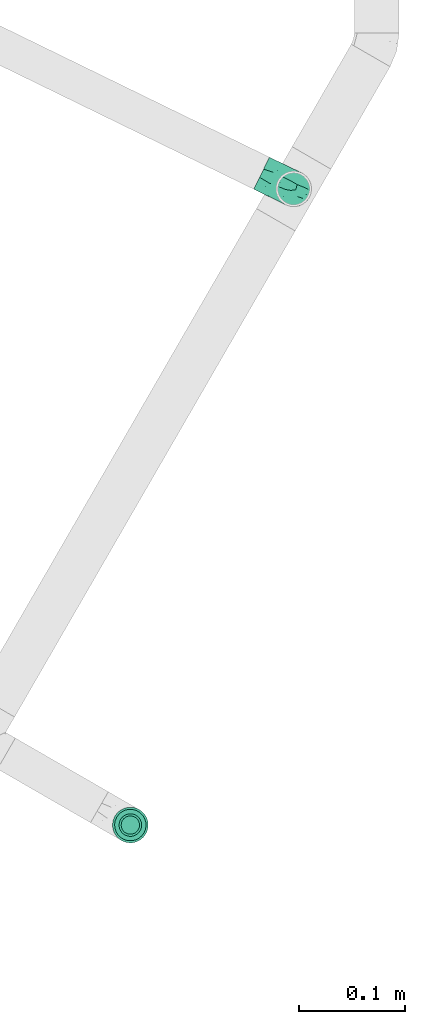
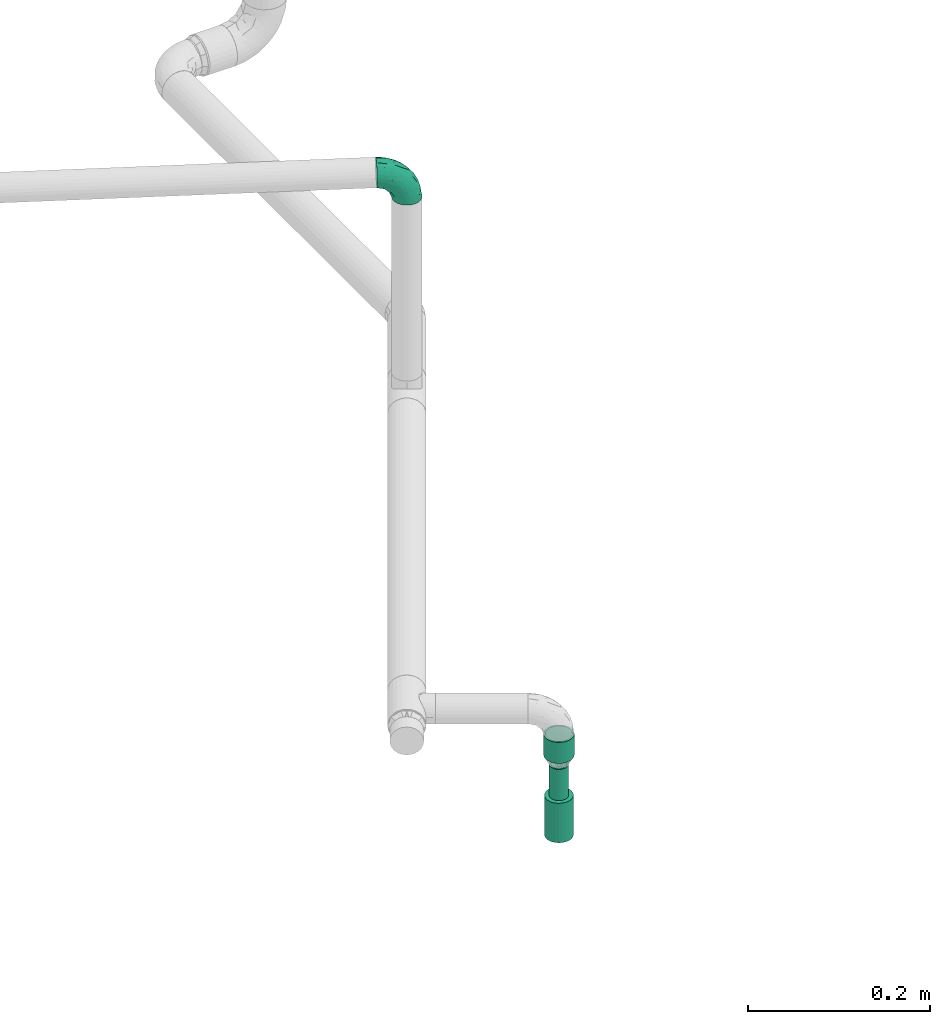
# One storey, part 24 of 43: 2 flow segments, 1 flow fitting, 1 flow terminal.
"""IFC2X3 building model written with IfcOpenShell, lengths in millimetres."""

from ifc_helpers import new_model, entity, si_unit, converted_unit, derived_unit, direction, frame, origin_with_axes, origin_2d_with_axis, place, context, subcontext, project, spatial, hollow_circle, extrude, open_shell, surface_model, source, transform, mapped, type_object, element, save


model = new_model("IFC2X3")

# Units and contexts
model_context = context("Model", 3, precision=0.01, world=frame((0.0, 4.29681676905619e-09, 0.0)), true_north=direction((4.01073788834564e-13, 1.0)))
plan_context = context("Plan", 3, precision=0.01, world=frame((0.0, 4.29681676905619e-09, 0.0)), true_north=direction((4.01073788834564e-13, 1.0)))
body_context = subcontext(model_context, "Body", "Model", "MODEL_VIEW")
ifc_project = project(units=[converted_unit("PLANEANGLEUNIT", "DEGREE", entity("IfcPositiveLengthMeasure", 0.0174532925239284), si_unit("PLANEANGLEUNIT", "RADIAN"), dimensions=[0, 0, 0, 0, 0, 0, 0]), si_unit("AREAUNIT", "SQUARE_METRE"), si_unit("LENGTHUNIT", "METRE", prefix="MILLI"), si_unit("MASSUNIT", "GRAM", prefix="KILO"), si_unit("POWERUNIT", "WATT"), si_unit("PRESSUREUNIT", "PASCAL"), si_unit("FORCEUNIT", "NEWTON", prefix="KILO"), si_unit("ELECTRICVOLTAGEUNIT", "VOLT"), si_unit("ELECTRICCURRENTUNIT", "AMPERE"), si_unit("THERMODYNAMICTEMPERATUREUNIT", "DEGREE_CELSIUS"), si_unit("TIMEUNIT", "SECOND"), si_unit("VOLUMEUNIT", "CUBIC_METRE"), derived_unit("LINEARVELOCITYUNIT", [(si_unit("LENGTHUNIT", "METRE"), 1), (si_unit("TIMEUNIT", "SECOND"), -1)]), derived_unit("VOLUMETRICFLOWRATEUNIT", [(si_unit("VOLUMEUNIT", "CUBIC_METRE"), 1), (si_unit("TIMEUNIT", "SECOND"), -1)]), derived_unit("THERMALTRANSMITTANCEUNIT", [(si_unit("POWERUNIT", "WATT"), 1), (si_unit("THERMODYNAMICTEMPERATUREUNIT", "KELVIN"), -1), (si_unit("AREAUNIT", "SQUARE_METRE"), -1)]), derived_unit("SOUNDPRESSUREUNIT", [(si_unit("PRESSUREUNIT", "PASCAL"), 1)])], contexts=[model_context, plan_context])

# Site, building, storey
site_placement = place(None, frame((0.0, -4.29681676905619e-09, 0.0), z_axis=(0.0, 0.0, 1.0), x_axis=(1.0, 0.0, 0.0)))
site = spatial("IfcSite", under=ifc_project, at=site_placement, CompositionType="ELEMENT")
building_placement = place(site_placement, frame((0.0, 4.29681676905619e-09, 0.0), z_axis=(0.0, 0.0, 1.0), x_axis=(1.0, 0.0, 0.0)))
building = spatial("IfcBuilding", under=site, at=building_placement, Name="mc-building", CompositionType="ELEMENT")
storey_placement = place(building_placement, frame((0.0, 0.0, 210900.0), z_axis=(0.0, 0.0, 1.0), x_axis=(1.0, 0.0, 0.0)))
storey = spatial("IfcBuildingStorey", under=building, at=storey_placement, Name="Nivå F", CompositionType="ELEMENT", Elevation=210900.0)

# Flow fitting
pipe_fitting_type = type_object("IfcPipeFittingType", Name="magi_pipe_fe_elbow_short_001", PredefinedType="BEND")
shared_shape_1 = source(origin_with_axes(), body_context, "Body", "SurfaceModel", [
    surface_model("IfcShellBasedSurfaceModel", [(-33.8, 4.37404, -16.32415), (-33.8, 0.0, -16.9), (-33.8, 11.9501, -11.9501), (-33.8, 8.45, -14.63583), (-33.8, 16.32415, -4.37404), (-33.8, 14.63583, -8.45), (-33.8, -14.63583, -8.45), (-33.8, -16.32415, -4.37404), (-33.8, -8.45, 14.63583), (-33.8, -11.9501, -11.9501), (-33.8, -8.45, -14.63583), (-33.8, -4.37404, -16.32415), (-33.8, -16.9, 0.0), (-33.8, -16.32415, 4.37404), (-33.8, 11.9501, 11.9501), (-33.8, 14.63583, 8.45), (-33.8, 16.32415, 4.37404), (-33.8, 4.37404, 16.32415), (-33.8, 8.45, 14.63583), (-33.8, -14.63583, 8.45), (-33.8, -11.9501, 11.9501), (-33.8, -4.37404, 16.32415), (-33.8, 0.0, 16.9), (-33.8, 16.9, 0.0), (-11.9501, 33.8, -11.9501), (0.0, 33.8, -16.9), (-4.37404, 33.8, -16.32415), (-8.45, 33.8, -14.63583), (-14.63583, 33.8, -8.45), (-16.32415, 33.8, -4.37404), (14.63583, 33.8, -8.45), (8.45, 33.8, 14.63583), (16.32415, 33.8, -4.37404), (8.45, 33.8, -14.63583), (11.9501, 33.8, -11.9501), (4.37404, 33.8, -16.32415), (16.32415, 33.8, 4.37404), (16.9, 33.8, 0.0), (-11.9501, 33.8, 11.9501), (-16.32415, 33.8, 4.37404), (-14.63583, 33.8, 8.45), (-8.45, 33.8, 14.63583), (-4.37404, 33.8, 16.32415), (11.9501, 33.8, 11.9501), (14.63583, 33.8, 8.45), (0.0, 33.8, 16.9), (4.37404, 33.8, 16.32415), (-16.9, 33.8, 0.0), (-24.79389, -13.12945, 9.48721), (-22.19287, -9.75018, 12.59315), (-24.09897, -14.97035, 0.0), (-14.93934, -10.76256, 8.5297), (-22.46095, -14.75051, 5.27077), (14.75051, 22.46094, 5.27077), (11.9251, 13.23888, 4.33236), (13.04069, 14.39795, 0.0), (7.71387, 13.68847, 11.55891), (9.75018, 22.19287, 12.59315), (4.10169, 13.0571, 14.04018), (-24.84007, -6.39063, 15.2048), (-25.81779, -2.23879, 16.61097), (-23.66549, 2.59054, 16.87119), (-26.50418, 14.06512, 11.08152), (-24.21253, 17.66365, 7.72657), (-29.58514, 15.86957, 7.00283), (-6.17382, -7.5455, 0.0), (-13.23888, -11.9251, 4.33236), (-14.39795, -13.04069, 0.0), (-17.81434, 18.87373, 11.97104), (-6.30846, 29.15138, 15.82987), (-2.31622, 25.28002, 16.85849), (-29.23923, 10.23435, 13.77053), (-1.45439, -2.85688, 7.61475), (-0.28326, 0.34872, 10.09509), (-5.74484, -4.04709, 10.4122), (-4.41137, 11.31918, 16.59407), (-8.39727, 3.10034, 15.7812), (-1.72649, 9.1306, 15.53089), (-17.39909, 24.75344, 7.64977), (-26.19233, 20.0512, 0.0), (-28.14518, 17.29657, 4.25857), (-26.05147, 6.6281, 15.96447), (-5.87354, 16.61944, 16.86968), (-12.51807, 12.51807, 16.48937), (-10.06312, 7.38516, 16.81295), (-3.01882, 3.01882, 13.81718), (-13.0571, -4.10169, 14.04018), (-16.82553, -0.15166, 16.38038), (10.76256, 14.93934, 8.5297), (13.12945, 24.79389, 9.48721), (6.39063, 24.84007, 15.2048), (2.23879, 25.81779, 16.61097), (-13.68847, -7.71387, 11.55891), (14.97035, 24.09897, 0.0), (-7.30894, 22.89991, 16.09489), (-10.67958, 26.17414, 14.008), (-12.78295, 18.26924, 15.06066), (-13.88562, 22.45231, 12.93244), (-18.04944, 15.16501, 14.04434), (-23.11658, 20.08178, 4.02986), (-21.84989, 21.84989, 0.0), (-18.55817, 25.48277, 3.93065), (-13.95142, 26.94732, 11.03289), (-18.57098, 7.23906, 16.59756), (-16.58335, 4.14122, 16.89279), (-17.96666, 11.46709, 15.63151), (-9.84453, 17.54304, 16.18938), (0.15166, 16.82553, 16.38038), (-23.27207, 11.47201, 14.23154), (3.84842, 5.86994, 10.70473), (-8.0212, -7.54413, 7.93275), (1.00345, -2.19508, 4.57414), (5.13203, 3.01004, 5.90201), (5.24161, 1.7543, 2.53265), (8.70457, 7.04947, 3.99182), (-20.0512, 26.19233, 0.0), (8.4852, 8.76699, 7.09296), (-4.55488, -6.72064, 4.90681), (2.05031, -2.05031, 0.0), (7.5455, 6.17382, 0.0), (-26.75399, 2.1369, -16.845), (-14.61995, 24.73803, -11.27736), (-28.45274, -13.45335, -9.81895), (-26.00469, 6.63555, -15.96645), (-23.06726, 20.04573, -4.26202), (-13.80647, -4.26506, -14.17873), (-14.67501, -0.21081, -16.07388), (-6.7902, -0.2828, -13.8478), (-24.53586, 11.08096, -14.13417), (-26.72048, 14.00837, -11.05776), (10.0967, 24.44989, -12.75976), (5.83237, 21.40218, -15.03047), (6.66249, 28.54238, -15.38093), (-20.38182, 15.48705, -12.74596), (-15.65186, 19.64213, -13.01327), (-12.03528, 20.66498, -14.67665), (-15.61907, 15.61906, -14.83879), (-25.56551, -15.26206, 0.0), (-24.65452, -15.12934, -5.50955), (12.53268, 21.23441, -9.15363), (13.45335, 28.45274, -9.81895), (15.12934, 24.65452, -5.50955), (-7.35442, -8.31014, -5.65563), (-15.67504, -12.54494, -5.54878), (-24.44989, -10.0967, -12.75976), (0.16522, 0.41303, -9.71728), (-5.70658, -5.33066, -8.89288), (-5.13869, -2.37198, -11.53565), (-21.23441, -12.53268, -9.15363), (0.71146, 7.93863, -14.09382), (0.21081, 14.67501, -16.07388), (3.49291, 14.42772, -14.76381), (-24.89911, -2.13088, -16.591), (-28.54238, -6.66249, -15.38093), (-18.44386, -7.71663, -13.26957), (2.13088, 24.89911, -16.591), (-28.64342, 17.44413, -2.89318), (1.70017, -1.28722, -5.09504), (-16.57067, 26.81947, -7.36596), (-17.69055, 27.4263, -3.76405), (-12.89279, -9.7522, -8.66343), (-5.96611, 5.96611, -15.95814), (-20.53709, 20.09345, -8.28985), (-2.1369, 26.75399, -16.845), (-6.89872, 24.58781, -16.02578), (-10.60739, 26.53157, -13.98044), (-21.40218, -5.83237, -15.03047), (2.93192, 5.89627, -11.55917), (6.89393, 12.61842, -11.82233), (5.58056, 5.95325, -8.79455), (-3.99512, 18.61798, -16.89635), (-9.1383, 9.86148, -16.89041), (-9.99983, 16.02119, -16.39699), (-16.68576, 9.78031, -16.34199), (-27.01915, 16.61158, -7.12979), (15.26206, 25.56551, 0.0), (-18.61798, 3.99512, -16.89635), (-19.37495, 27.82495, 0.0), (9.7522, 12.89279, -8.66343), (-12.61842, -6.89393, -11.82233), (8.31014, 7.35442, -5.65563), (-18.84705, 19.14018, -10.96545), (12.54494, 15.67504, -5.54878)], [open_shell([[[0, 1, 2]], [[3, 0, 2]], [[4, 5, 2]], [[6, 2, 1]], [[2, 7, 8]], [[9, 6, 10]], [[1, 11, 10]], [[10, 6, 1]], [[2, 6, 7]], [[12, 13, 7]], [[4, 2, 14]], [[4, 15, 16]], [[4, 14, 15]], [[17, 18, 14]], [[14, 2, 8]], [[17, 14, 8]], [[19, 20, 13]], [[20, 7, 13]], [[21, 22, 8]], [[20, 8, 7]], [[8, 22, 17]], [[4, 16, 23]], [[24, 25, 26]], [[24, 26, 27]], [[24, 28, 29]], [[25, 24, 30]], [[31, 32, 24]], [[33, 30, 34]], [[33, 35, 25]], [[25, 30, 33]], [[32, 30, 24]], [[32, 36, 37]], [[38, 24, 29]], [[39, 40, 29]], [[40, 38, 29]], [[38, 41, 42]], [[38, 31, 24]], [[31, 38, 42]], [[36, 43, 44]], [[36, 32, 43]], [[31, 45, 46]], [[32, 31, 43]], [[42, 45, 31]], [[39, 29, 47]], [[20, 48, 49]], [[13, 12, 50]], [[51, 48, 52]], [[53, 54, 55]], [[48, 20, 19]], [[13, 52, 19]], [[56, 57, 58]], [[49, 8, 20]], [[49, 59, 8]], [[22, 60, 61]], [[62, 63, 64]], [[65, 66, 67]], [[57, 43, 31]], [[62, 68, 63]], [[42, 69, 70]], [[18, 71, 14]], [[21, 60, 22]], [[72, 73, 74]], [[75, 76, 77]], [[14, 62, 15]], [[40, 39, 78]], [[79, 23, 80]], [[64, 16, 15]], [[22, 61, 17]], [[17, 81, 18]], [[82, 83, 84]], [[74, 85, 86]], [[59, 86, 87]], [[88, 89, 57]], [[90, 31, 46]], [[44, 53, 36]], [[46, 45, 91]], [[54, 53, 88]], [[44, 89, 53]], [[92, 86, 49]], [[89, 44, 43]], [[8, 59, 21]], [[53, 55, 93]], [[93, 36, 53]], [[66, 52, 67]], [[94, 82, 70]], [[95, 96, 94]], [[97, 98, 96]], [[79, 99, 100]], [[41, 38, 95]], [[101, 100, 99]], [[68, 78, 63]], [[42, 41, 69]], [[23, 16, 80]], [[95, 94, 69]], [[78, 101, 99]], [[38, 102, 95]], [[70, 45, 42]], [[97, 95, 102]], [[13, 50, 52]], [[90, 57, 31]], [[57, 90, 58]], [[81, 17, 61]], [[103, 104, 84]], [[105, 81, 103]], [[38, 40, 102]], [[106, 96, 83]], [[94, 106, 82]], [[91, 70, 107]], [[71, 62, 14]], [[62, 108, 98]], [[86, 59, 49]], [[67, 52, 50]], [[60, 59, 87]], [[92, 49, 51]], [[86, 85, 76]], [[91, 90, 46]], [[37, 36, 93]], [[107, 77, 58]], [[107, 58, 90]], [[58, 85, 109]], [[110, 74, 92]], [[72, 74, 110]], [[66, 51, 52]], [[72, 111, 112]], [[113, 114, 112]], [[56, 88, 57]], [[52, 48, 19]], [[49, 48, 51]], [[57, 89, 43]], [[53, 89, 88]], [[103, 81, 61]], [[71, 81, 108]], [[16, 64, 80]], [[63, 78, 99]], [[47, 115, 101]], [[101, 115, 100]], [[40, 78, 102]], [[68, 102, 78]], [[97, 96, 95]], [[105, 98, 108]], [[103, 84, 83]], [[107, 70, 82]], [[76, 84, 87]], [[82, 84, 75]], [[70, 91, 45]], [[90, 91, 107]], [[59, 60, 21]], [[61, 60, 87]], [[73, 85, 74]], [[109, 112, 116]], [[103, 61, 104]], [[105, 103, 83]], [[96, 105, 83]], [[81, 105, 108]], [[96, 98, 105]], [[62, 98, 68]], [[61, 87, 104]], [[87, 84, 104]], [[86, 76, 87]], [[77, 76, 85]], [[58, 77, 85]], [[75, 77, 107]], [[82, 75, 107]], [[76, 75, 84]], [[81, 71, 18]], [[62, 71, 108]], [[95, 69, 41]], [[70, 69, 94]], [[62, 64, 15]], [[80, 63, 99]], [[63, 80, 64]], [[80, 99, 79]], [[66, 65, 117]], [[110, 66, 117]], [[112, 114, 116]], [[118, 117, 65]], [[110, 92, 51]], [[112, 111, 113]], [[119, 55, 54]], [[74, 86, 92]], [[58, 109, 56]], [[116, 56, 109]], [[66, 110, 51]], [[72, 110, 117]], [[111, 72, 117]], [[73, 112, 109]], [[117, 118, 111]], [[113, 111, 118]], [[118, 119, 113]], [[114, 119, 54]], [[119, 114, 113]], [[116, 54, 88]], [[54, 116, 114]], [[116, 88, 56]], [[112, 73, 72]], [[85, 73, 109]], [[78, 39, 101]], [[47, 101, 39]], [[102, 68, 97]], [[97, 68, 98]], [[82, 106, 83]], [[94, 96, 106]], [[0, 120, 1]], [[28, 24, 121]], [[9, 122, 6]], [[3, 123, 0]], [[100, 124, 79]], [[125, 126, 127]], [[128, 2, 129]], [[130, 131, 132]], [[128, 129, 133]], [[134, 135, 136]], [[128, 3, 2]], [[67, 137, 138]], [[139, 140, 141]], [[138, 7, 6]], [[142, 65, 143]], [[144, 9, 10]], [[145, 146, 147]], [[143, 138, 148]], [[149, 150, 151]], [[152, 11, 1]], [[10, 153, 144]], [[148, 144, 154]], [[153, 10, 11]], [[35, 155, 25]], [[23, 79, 156]], [[146, 157, 142]], [[158, 159, 29]], [[143, 160, 142]], [[161, 150, 149]], [[29, 28, 158]], [[121, 162, 158]], [[33, 34, 130]], [[25, 163, 26]], [[26, 163, 164]], [[140, 34, 30]], [[24, 27, 165]], [[124, 159, 162]], [[155, 35, 132]], [[153, 152, 166]], [[123, 3, 128]], [[167, 168, 169]], [[170, 155, 150]], [[26, 164, 27]], [[132, 35, 33]], [[140, 130, 34]], [[166, 152, 126]], [[133, 134, 136]], [[2, 5, 129]], [[168, 131, 130]], [[30, 32, 141]], [[170, 171, 172]], [[173, 123, 128]], [[156, 174, 4]], [[165, 27, 164]], [[172, 164, 170]], [[134, 165, 135]], [[122, 138, 6]], [[137, 12, 7]], [[32, 37, 175]], [[168, 130, 139]], [[150, 155, 131]], [[163, 155, 170]], [[151, 168, 149]], [[150, 161, 171]], [[166, 125, 154]], [[122, 144, 148]], [[120, 152, 1]], [[176, 171, 126]], [[176, 126, 152]], [[126, 161, 127]], [[160, 143, 148]], [[137, 7, 138]], [[32, 175, 141]], [[55, 141, 175]], [[174, 129, 5]], [[128, 133, 136]], [[173, 128, 136]], [[120, 123, 176]], [[121, 158, 28]], [[159, 100, 177]], [[164, 172, 135]], [[121, 24, 165]], [[159, 47, 29]], [[79, 124, 156]], [[124, 162, 174]], [[159, 124, 100]], [[178, 169, 168]], [[127, 161, 149]], [[145, 169, 157]], [[146, 142, 160]], [[127, 149, 167]], [[127, 179, 125]], [[129, 174, 162]], [[5, 4, 174]], [[157, 65, 142]], [[67, 138, 143]], [[123, 120, 0]], [[152, 120, 176]], [[155, 163, 25]], [[164, 163, 170]], [[170, 150, 171]], [[173, 136, 172]], [[126, 171, 161]], [[173, 171, 176]], [[171, 173, 172]], [[123, 173, 176]], [[148, 179, 160]], [[127, 147, 179]], [[179, 146, 160]], [[157, 146, 145]], [[169, 178, 180]], [[168, 139, 178]], [[157, 169, 180]], [[169, 145, 167]], [[167, 145, 147]], [[149, 168, 167]], [[162, 181, 129]], [[181, 121, 134]], [[179, 147, 146]], [[167, 147, 127]], [[181, 134, 133]], [[165, 134, 121]], [[164, 135, 165]], [[172, 136, 135]], [[129, 181, 133]], [[121, 181, 162]], [[159, 158, 162]], [[47, 159, 177]], [[174, 156, 124]], [[23, 156, 4]], [[130, 132, 33]], [[155, 132, 131]], [[141, 140, 30]], [[130, 140, 139]], [[152, 153, 11]], [[144, 153, 166]], [[144, 122, 9]], [[138, 122, 148]], [[150, 131, 151]], [[157, 119, 118]], [[67, 143, 65]], [[168, 151, 131]], [[119, 157, 180]], [[157, 118, 65]], [[154, 125, 179]], [[126, 125, 166]], [[148, 154, 179]], [[166, 154, 144]], [[139, 182, 178]], [[141, 182, 139]], [[178, 182, 180]], [[182, 55, 119]], [[141, 55, 182]], [[182, 119, 180]]])]),
])
flow_fitting_placement = place(storey_placement, frame((605490.01562, 696644.86733, 2571.79999999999), z_axis=(-0.438371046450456, -0.898794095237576, 0.0), x_axis=(0.0, 0.0, 1.0)))
element("IfcFlowFitting", 1, at=flow_fitting_placement, inside=storey, type_object=pipe_fitting_type, Name="magi_pipe_fe_elbow_short_001", context=body_context, shape_type="MappedRepresentation", body=[
    mapped(shared_shape_1, transform((0.0, 0.0, 0.0), scale=1.0)),
])

# Flow segments
pipe_segment_type = type_object("IfcPipeSegmentType", Name="Stålrør normaltykke", PredefinedType="RIGIDSEGMENT")
shared_shape_2 = source(origin_with_axes(), body_context, "Body", "SweptSolid", [
    extrude(hollow_circle(Radius=16.9, WallThickness=2.0, at=origin_2d_with_axis()), frame((0.0, 0.0, 0.0), z_axis=(1.0, 0.0, 0.0), x_axis=(0.0, 1.0, 0.0)), (0.0, 0.0, 1.0), 28.3),
])
flow_segment_1_placement = place(storey_placement, frame((605335.38757, 696042.5621, 2236.20000000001), z_axis=(0.500000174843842, 0.866025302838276, 0.0), x_axis=(0.0, 0.0, -1.0)))
element("IfcFlowSegment", 2, at=flow_segment_1_placement, inside=storey, type_object=pipe_segment_type, Name="Stålrør normaltykke", context=body_context, shape_type="MappedRepresentation", body=[
    mapped(shared_shape_2, transform((0.0, 0.0, 0.0), scale=1.0)),
])
shared_shape_3 = source(origin_with_axes(), body_context, "Body", "SweptSolid", [
    extrude(hollow_circle(Radius=10.7, WallThickness=2.0, at=origin_2d_with_axis()), frame((0.0, 0.0, 0.0), z_axis=(1.0, 0.0, 0.0), x_axis=(0.0, 1.0, 0.0)), (0.0, 0.0, 1.0), 44.8),
])
flow_segment_2_placement = place(storey_placement, frame((605335.38757, 696042.5621, 2150.73131), z_axis=(0.0, 1.0, 0.0), x_axis=(0.0, 0.0, 1.0)))
element("IfcFlowSegment", 3, at=flow_segment_2_placement, inside=storey, type_object=pipe_segment_type, Name="Stålrør normaltykke", context=body_context, shape_type="MappedRepresentation", body=[
    mapped(shared_shape_3, transform((0.0, 0.0, 0.0), scale=1.0)),
])

# Flow terminal
fire_suppression_terminal_type = type_object("IfcFireSuppressionTerminalType", Name="SP-15-K80-68DGR-STD-HIMLING", PredefinedType="NOTDEFINED")
shared_shape_4 = source(origin_with_axes(), body_context, "Body", "SurfaceModel", [
    surface_model("IfcShellBasedSurfaceModel", [(4.1411, -15.45481, 53.0), (8.0, -13.85641, 53.0), (11.31371, -11.31371, 53.0), (-8.0, -13.85641, 53.0), (15.45481, -4.1411, 53.0), (16.0, 0.0, 53.0), (13.85641, -8.0, 53.0), (0.0, -16.0, 53.0), (-4.1411, -15.45481, 53.0), (-13.85641, -8.0, 53.0), (-11.31371, -11.31371, 53.0), (-15.45481, -4.1411, 53.0), (15.45481, 4.1411, 53.0), (13.85641, 8.0, 53.0), (11.31371, 11.31371, 53.0), (-4.1411, 15.45481, 53.0), (8.0, 13.85641, 53.0), (4.1411, 15.45481, 53.0), (0.0, 16.0, 53.0), (-13.85641, 8.0, 53.0), (-15.45481, 4.1411, 53.0), (-16.0, 0.0, 53.0), (-11.31371, 11.31371, 53.0), (-8.0, 13.85641, 53.0), (0.0, 16.0, 0.0), (4.1411, 15.45481, 0.0), (8.0, 13.85641, 0.0), (-4.1411, 15.45481, 0.0), (11.31371, 11.31371, 0.0), (13.85641, 8.0, 0.0), (15.45481, 4.1411, 0.0), (-15.45481, -4.1411, 0.0), (-11.31371, 11.31371, 0.0), (-8.0, 13.85641, 0.0), (-13.85641, 8.0, 0.0), (-15.45481, 4.1411, 0.0), (-16.0, 0.0, 0.0), (4.1411, -15.45481, 0.0), (16.0, 0.0, 0.0), (15.45481, -4.1411, 0.0), (13.85641, -8.0, 0.0), (11.31371, -11.31371, 0.0), (8.0, -13.85641, 0.0), (-8.0, -13.85641, 0.0), (-13.85641, -8.0, 0.0), (-11.31371, -11.31371, 0.0), (0.0, -16.0, 0.0), (-4.1411, -15.45481, 0.0)], [open_shell([[[0, 1, 2]], [[3, 0, 2]], [[4, 5, 2]], [[4, 2, 6]], [[3, 2, 5]], [[7, 3, 8]], [[7, 0, 3]], [[3, 9, 10]], [[9, 3, 11]], [[5, 11, 3]], [[5, 12, 11]], [[12, 13, 14]], [[15, 12, 14]], [[16, 17, 18]], [[14, 16, 15]], [[18, 15, 16]], [[11, 19, 20]], [[21, 11, 20]], [[22, 15, 23]], [[15, 22, 19]], [[19, 11, 15]], [[11, 12, 15]], [[24, 25, 26]], [[27, 24, 26]], [[28, 29, 30]], [[27, 26, 28]], [[27, 28, 31]], [[27, 32, 33]], [[32, 27, 34]], [[34, 31, 35]], [[31, 34, 27]], [[35, 31, 36]], [[28, 30, 31]], [[37, 38, 39]], [[37, 39, 40]], [[41, 42, 37]], [[41, 37, 40]], [[38, 37, 43]], [[44, 43, 45]], [[43, 44, 31]], [[43, 46, 47]], [[43, 31, 38]], [[37, 46, 43]], [[38, 31, 30]], [[11, 31, 44]], [[45, 9, 44]], [[3, 43, 47]], [[45, 43, 10]], [[8, 47, 46]], [[31, 21, 36]], [[31, 11, 21]], [[44, 9, 11]], [[45, 10, 9]], [[3, 10, 43]], [[47, 8, 3]], [[46, 7, 8]], [[0, 37, 42]], [[41, 1, 42]], [[6, 40, 39]], [[41, 40, 2]], [[4, 39, 38]], [[37, 0, 7]], [[42, 1, 0]], [[41, 2, 1]], [[40, 6, 2]], [[4, 6, 39]], [[38, 5, 4]], [[37, 7, 46]], [[12, 38, 30]], [[13, 30, 29]], [[16, 26, 25]], [[17, 25, 24]], [[30, 13, 12]], [[12, 5, 38]], [[28, 14, 13]], [[28, 26, 14]], [[14, 26, 16]], [[25, 17, 16]], [[28, 13, 29]], [[24, 18, 17]], [[15, 27, 33]], [[32, 23, 33]], [[19, 34, 35]], [[32, 34, 22]], [[20, 35, 36]], [[27, 15, 18]], [[33, 23, 15]], [[32, 22, 23]], [[34, 19, 22]], [[20, 19, 35]], [[36, 21, 20]], [[27, 18, 24]]])]),
])
flow_terminal_placement = place(storey_placement, frame((605335.38757, 696042.5621, 2153.77931000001), z_axis=(0.0, 0.0, -1.0), x_axis=(-1.0, 0.0, 0.0)))
element("IfcFlowTerminal", 4, at=flow_terminal_placement, inside=storey, type_object=fire_suppression_terminal_type, Name="SP-15-K80-68DGR-STD-HIMLING", context=body_context, shape_type="MappedRepresentation", body=[
    mapped(shared_shape_4, transform((0.0, 0.0, 0.0), scale=1.0)),
])

save(model, "model.ifc")
